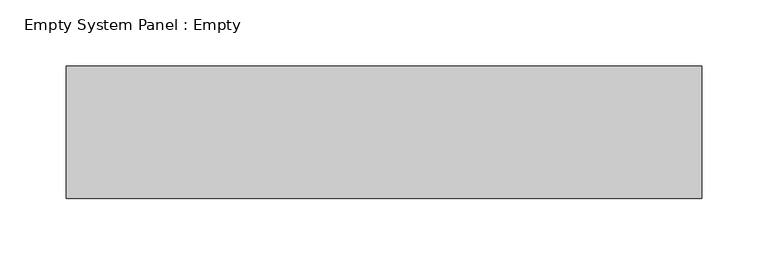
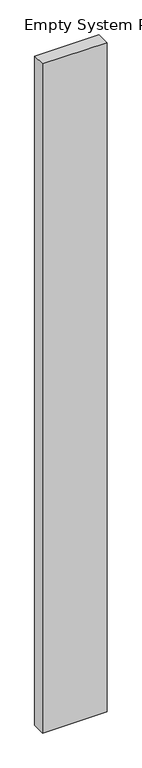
"""IFC4 building model written with IfcOpenShell, lengths in millimetres: plate geometry, Empty System Panel : Empty."""

from ifc_helpers import new_model, si_unit, origin, origin_with_axes, place, context, project, spatial, polyline, outline, extrude, source, transform, mapped, element, save


def empty_system_panel_empty_132bf8c6(model_context):
    return source(origin(), model_context, "Body", "SweptSolid", [
        extrude(outline(polyline([(239.7473037, -50.0), (-239.7473037, -50.0), (-239.7473037, 50.0), (239.7473037, 50.0), (239.7473037, -50.0)])), origin_with_axes(), (0.0, 0.0, 1.0), 5261.0527142),
    ])


if __name__ == "__main__":
    model = new_model("IFC4")
    model_context = context("Model", 3, world=origin())
    ifc_project = project(units=[si_unit("LENGTHUNIT", "METRE", prefix="MILLI")], contexts=[model_context])
    site = spatial("IfcSite", under=ifc_project)
    building = spatial("IfcBuilding", under=site)
    placement = place(None, origin())
    empty_system_panel_empty_shape = empty_system_panel_empty_132bf8c6(model_context)
    element("IfcPlate", 1, ObjectType="Empty System Panel : Empty", at=placement, inside=building, context=model_context, shape_type="MappedRepresentation", body=[
        mapped(empty_system_panel_empty_shape, transform((0.0, 0.0, 0.0), x_axis=(1.0, 0.0, 0.0), y_axis=(0.0, 1.0, 0.0), z_axis=(0.0, 0.0, 1.0))),
    ])
    save(model, "model.ifc")
